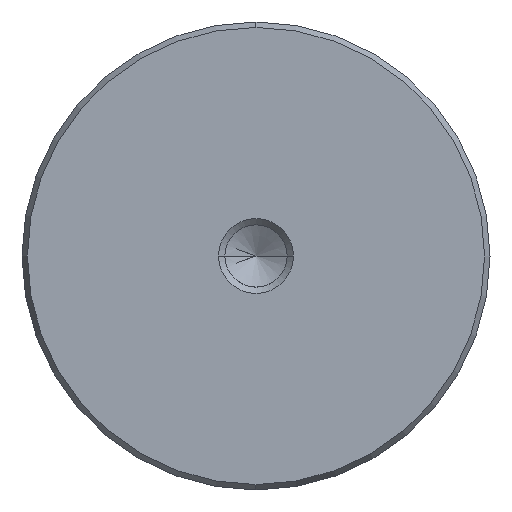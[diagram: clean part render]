
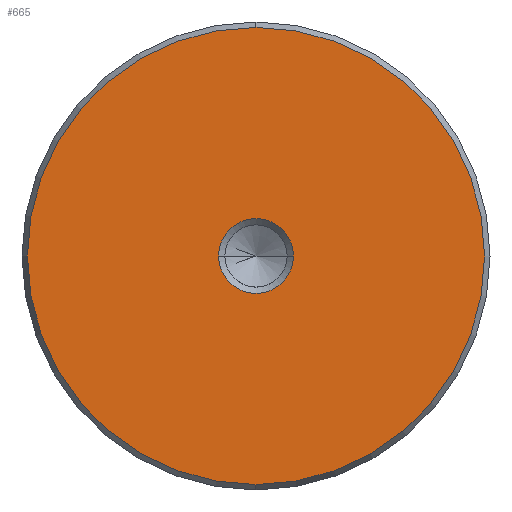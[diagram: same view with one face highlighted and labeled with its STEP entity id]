
A CAD part, left-side view. The second image highlights one B-rep face of the part: STEP entity #665.
In plain terms, the highlighted planar face has unit normal (-1, 0, 0).
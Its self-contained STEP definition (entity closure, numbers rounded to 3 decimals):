
#579=CARTESIAN_POINT('Vertex',(0.,0.,-24.423)) ;
#582=CARTESIAN_POINT('Axis2P3D Location',(0.,0.,0.)) ;
#586=CARTESIAN_POINT('Vertex',(0.,24.423,0.)) ;
#589=CARTESIAN_POINT('Axis2P3D Location',(0.,0.,0.)) ;
#593=CARTESIAN_POINT('Vertex',(0.,0.,24.423)) ;
#615=CARTESIAN_POINT('Axis2P3D Location',(0.,0.,0.)) ;
#619=CARTESIAN_POINT('Vertex',(0.,-24.423,0.)) ;
#622=CARTESIAN_POINT('Axis2P3D Location',(0.,0.,0.)) ;
#636=CARTESIAN_POINT('Axis2P3D Location',(0.,0.,0.)) ;
#647=CARTESIAN_POINT('Axis2P3D Location',(0.,0.,0.)) ;
#651=CARTESIAN_POINT('Vertex',(0.,4.,0.)) ;
#653=CARTESIAN_POINT('Vertex',(0.,-4.,0.)) ;
#656=CARTESIAN_POINT('Axis2P3D Location',(0.,0.,0.)) ;
#583=DIRECTION('Axis2P3D Direction',(1.,0.,-0.)) ;
#590=DIRECTION('Axis2P3D Direction',(1.,0.,-0.)) ;
#616=DIRECTION('Axis2P3D Direction',(1.,0.,-0.)) ;
#623=DIRECTION('Axis2P3D Direction',(1.,0.,-0.)) ;
#637=DIRECTION('Axis2P3D Direction',(1.,0.,-0.)) ;
#638=DIRECTION('Axis2P3D XDirection',(-0.,0.,-1.)) ;
#648=DIRECTION('Axis2P3D Direction',(1.,0.,-0.)) ;
#657=DIRECTION('Axis2P3D Direction',(1.,0.,-0.)) ;
#584=AXIS2_PLACEMENT_3D('Circle Axis2P3D',#582,#583,$) ;
#591=AXIS2_PLACEMENT_3D('Circle Axis2P3D',#589,#590,$) ;
#617=AXIS2_PLACEMENT_3D('Circle Axis2P3D',#615,#616,$) ;
#624=AXIS2_PLACEMENT_3D('Circle Axis2P3D',#622,#623,$) ;
#639=AXIS2_PLACEMENT_3D('Plane Axis2P3D',#636,#637,#638) ;
#649=AXIS2_PLACEMENT_3D('Circle Axis2P3D',#647,#648,$) ;
#658=AXIS2_PLACEMENT_3D('Circle Axis2P3D',#656,#657,$) ;
#642=ORIENTED_EDGE('',*,*,#588,.F.) ;
#643=ORIENTED_EDGE('',*,*,#626,.F.) ;
#644=ORIENTED_EDGE('',*,*,#621,.F.) ;
#645=ORIENTED_EDGE('',*,*,#595,.F.) ;
#662=ORIENTED_EDGE('',*,*,#655,.T.) ;
#663=ORIENTED_EDGE('',*,*,#660,.T.) ;
#664=FACE_BOUND('',#661,.T.) ;
#665=ADVANCED_FACE('720-50x355',(#646,#664),#640,.F.) ;
#585=CIRCLE('generated circle',#584,24.423) ;
#592=CIRCLE('generated circle',#591,24.423) ;
#618=CIRCLE('generated circle',#617,24.423) ;
#625=CIRCLE('generated circle',#624,24.423) ;
#650=CIRCLE('generated circle',#649,4.) ;
#659=CIRCLE('generated circle',#658,4.) ;
#588=EDGE_CURVE('',#580,#587,#585,.T.) ;
#595=EDGE_CURVE('',#587,#594,#592,.T.) ;
#621=EDGE_CURVE('',#594,#620,#618,.T.) ;
#626=EDGE_CURVE('',#620,#580,#625,.T.) ;
#655=EDGE_CURVE('',#652,#654,#650,.T.) ;
#660=EDGE_CURVE('',#654,#652,#659,.T.) ;
#641=EDGE_LOOP('',(#642,#643,#644,#645)) ;
#661=EDGE_LOOP('',(#662,#663)) ;
#646=FACE_OUTER_BOUND('',#641,.T.) ;
#640=PLANE('Plane',#639) ;
#580=VERTEX_POINT('',#579) ;
#587=VERTEX_POINT('',#586) ;
#594=VERTEX_POINT('',#593) ;
#620=VERTEX_POINT('',#619) ;
#652=VERTEX_POINT('',#651) ;
#654=VERTEX_POINT('',#653) ;
